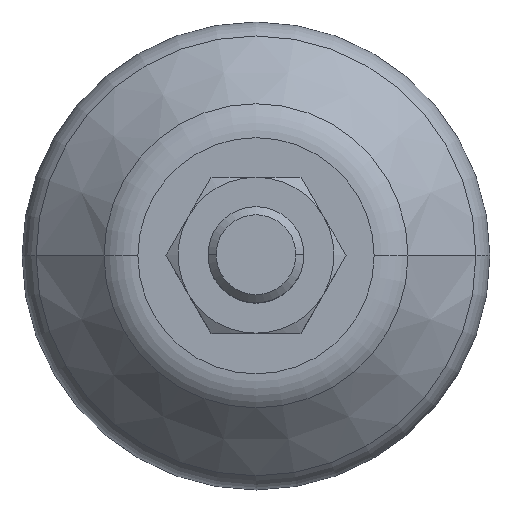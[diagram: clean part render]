
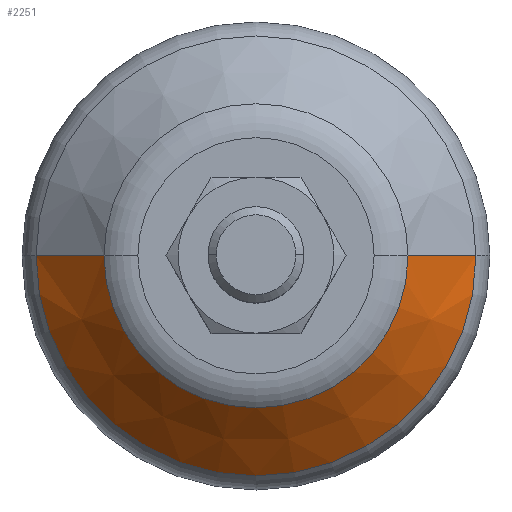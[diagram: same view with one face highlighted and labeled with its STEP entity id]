
A CAD part, top view. The second image highlights one B-rep face of the part: STEP entity #2251.
In plain terms, the highlighted conical face has half-angle 45 degrees and reference radius 18.328 mm.
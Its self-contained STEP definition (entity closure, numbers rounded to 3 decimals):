
#2 = CARTESIAN_POINT ( 'NONE',  ( -18.328, 0., 5.172 ) ) ;
#61 = DIRECTION ( 'NONE',  ( -0.707, 0., -0.707 ) ) ;
#81 = CIRCLE ( 'NONE', #2727, 18.328 ) ;
#113 = VERTEX_POINT ( 'NONE', #1102 ) ;
#161 = EDGE_LOOP ( 'NONE', ( #2512, #1162, #401, #1561 ) ) ;
#225 = DIRECTION ( 'NONE',  ( -1., 0., 0. ) ) ;
#280 = DIRECTION ( 'NONE',  ( 0.707, 0., -0.707 ) ) ;
#290 = DIRECTION ( 'NONE',  ( -1., 0., 0. ) ) ;
#401 = ORIENTED_EDGE ( 'NONE', *, *, #1988, .T. ) ;
#413 = CARTESIAN_POINT ( 'NONE',  ( 18.328, 0., 5.172 ) ) ;
#461 = LINE ( 'NONE', #2, #690 ) ;
#486 = DIRECTION ( 'NONE',  ( 0., 0., -1. ) ) ;
#682 = CARTESIAN_POINT ( 'NONE',  ( -18.328, 0., 5.172 ) ) ;
#690 = VECTOR ( 'NONE', #61, 1000. ) ;
#895 = EDGE_CURVE ( 'NONE', #1232, #2604, #2250, .T. ) ;
#1053 = CONICAL_SURFACE ( 'NONE', #1913, 18.328, 0.785 ) ;
#1102 = CARTESIAN_POINT ( 'NONE',  ( -12.672, 0., 10.828 ) ) ;
#1141 = CARTESIAN_POINT ( 'NONE',  ( 12.672, 0., 10.828 ) ) ;
#1162 = ORIENTED_EDGE ( 'NONE', *, *, #2413, .T. ) ;
#1232 = VERTEX_POINT ( 'NONE', #1141 ) ;
#1476 = CARTESIAN_POINT ( 'NONE',  ( 0., 0., 10.828 ) ) ;
#1561 = ORIENTED_EDGE ( 'NONE', *, *, #2350, .F. ) ;
#1738 = CARTESIAN_POINT ( 'NONE',  ( 0., 0., 5.172 ) ) ;
#1913 = AXIS2_PLACEMENT_3D ( 'NONE', #2866, #2104, #2150 ) ;
#1988 = EDGE_CURVE ( 'NONE', #113, #3041, #461, .T. ) ;
#2104 = DIRECTION ( 'NONE',  ( 0., 0., -1. ) ) ;
#2150 = DIRECTION ( 'NONE',  ( -1., 0., 0. ) ) ;
#2250 = LINE ( 'NONE', #2467, #2334 ) ;
#2251 = ADVANCED_FACE ( 'NONE', ( #3059 ), #1053, .T. ) ;
#2334 = VECTOR ( 'NONE', #280, 1000. ) ;
#2350 = EDGE_CURVE ( 'NONE', #2604, #3041, #81, .T. ) ;
#2410 = DIRECTION ( 'NONE',  ( 0., 0., -1. ) ) ;
#2413 = EDGE_CURVE ( 'NONE', #1232, #113, #2626, .T. ) ;
#2467 = CARTESIAN_POINT ( 'NONE',  ( 18.328, 0., 5.172 ) ) ;
#2477 = AXIS2_PLACEMENT_3D ( 'NONE', #1476, #2410, #225 ) ;
#2512 = ORIENTED_EDGE ( 'NONE', *, *, #895, .F. ) ;
#2604 = VERTEX_POINT ( 'NONE', #413 ) ;
#2626 = CIRCLE ( 'NONE', #2477, 12.672 ) ;
#2727 = AXIS2_PLACEMENT_3D ( 'NONE', #1738, #486, #290 ) ;
#2866 = CARTESIAN_POINT ( 'NONE',  ( 0., 0., 5.172 ) ) ;
#3041 = VERTEX_POINT ( 'NONE', #682 ) ;
#3059 = FACE_OUTER_BOUND ( 'NONE', #161, .T. ) ;
